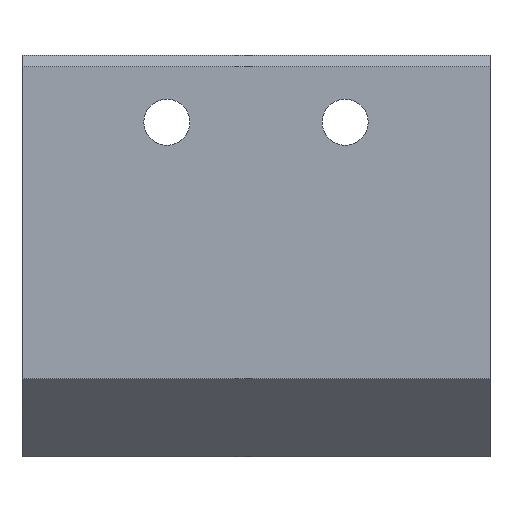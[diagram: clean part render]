
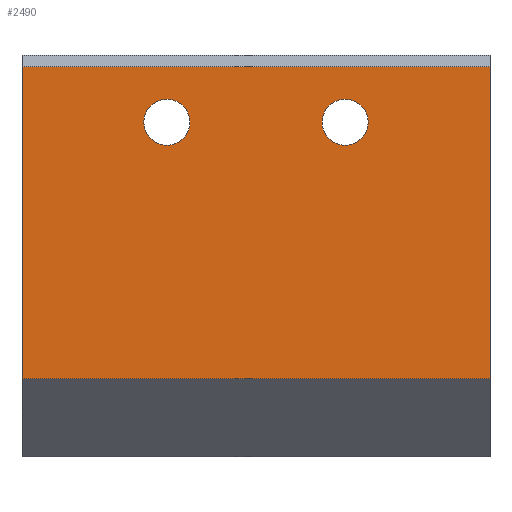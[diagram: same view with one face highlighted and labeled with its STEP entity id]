
A CAD part, front view. The second image highlights one B-rep face of the part: STEP entity #2490.
In plain terms, the highlighted planar face has unit normal (0, -1, 0).
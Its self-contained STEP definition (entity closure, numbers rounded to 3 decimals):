
#1672=CARTESIAN_POINT('',(42.0,-15.,20.));
#1673=VERTEX_POINT('',#1672);
#1690=CARTESIAN_POINT('',(0.0,-15.,20.));
#1691=VERTEX_POINT('',#1690);
#1698=CARTESIAN_POINT('',(0.0,-15.,20.));
#1699=DIRECTION('',(1.0,0.0,0.0));
#1700=VECTOR('',#1699,42.0);
#1701=LINE('',#1698,#1700);
#1702=EDGE_CURVE('',#1691,#1673,#1701,.T.);
#1753=CARTESIAN_POINT('',(0.0,-15.,-8.));
#1754=VERTEX_POINT('',#1753);
#1761=CARTESIAN_POINT('',(0.0,-15.,-8.));
#1762=DIRECTION('',(0.0,0.0,1.0));
#1763=VECTOR('',#1762,28.0);
#1764=LINE('',#1761,#1763);
#1765=EDGE_CURVE('',#1754,#1691,#1764,.T.);
#1850=CARTESIAN_POINT('',(42.0,-15.,-8.));
#1851=VERTEX_POINT('',#1850);
#1858=CARTESIAN_POINT('',(42.0,-15.,-8.));
#1859=DIRECTION('',(-1.0,0.0,0.0));
#1860=VECTOR('',#1859,42.0);
#1861=LINE('',#1858,#1860);
#1862=EDGE_CURVE('',#1851,#1754,#1861,.T.);
#2281=CARTESIAN_POINT('',(31.067,-15.,15.));
#2282=VERTEX_POINT('',#2281);
#2283=CARTESIAN_POINT('',(29.,-15.,15.));
#2284=DIRECTION('',(0.0,1.0,0.0));
#2285=DIRECTION('',(-1.0,0.0,0.0));
#2286=AXIS2_PLACEMENT_3D('',#2283,#2284,#2285);
#2287=CIRCLE('',#2286,2.067);
#2288=EDGE_CURVE('',#2282,#2282,#2287,.T.);
#2391=CARTESIAN_POINT('',(15.067,-15.,15.));
#2392=VERTEX_POINT('',#2391);
#2393=CARTESIAN_POINT('',(13.,-15.,15.));
#2394=DIRECTION('',(0.0,1.0,0.0));
#2395=DIRECTION('',(-1.0,0.0,0.0));
#2396=AXIS2_PLACEMENT_3D('',#2393,#2394,#2395);
#2397=CIRCLE('',#2396,2.067);
#2398=EDGE_CURVE('',#2392,#2392,#2397,.T.);
#2468=CARTESIAN_POINT('',(0.0,-15.,-15.));
#2469=DIRECTION('',(0.0,-1.0,0.0));
#2470=DIRECTION('',(0.0,0.0,-1.0));
#2471=AXIS2_PLACEMENT_3D('',#2468,#2469,#2470);
#2472=PLANE('',#2471);
#2473=ORIENTED_EDGE('',*,*,#1702,.F.);
#2474=ORIENTED_EDGE('',*,*,#1765,.F.);
#2475=ORIENTED_EDGE('',*,*,#1862,.F.);
#2476=CARTESIAN_POINT('',(42.0,-15.,-8.));
#2477=DIRECTION('',(0.0,0.0,1.0));
#2478=VECTOR('',#2477,28.0);
#2479=LINE('',#2476,#2478);
#2480=EDGE_CURVE('',#1851,#1673,#2479,.T.);
#2481=ORIENTED_EDGE('',*,*,#2480,.T.);
#2482=EDGE_LOOP('',(#2473,#2474,#2475,#2481));
#2483=FACE_OUTER_BOUND('',#2482,.T.);
#2484=ORIENTED_EDGE('',*,*,#2288,.T.);
#2485=EDGE_LOOP('',(#2484));
#2486=FACE_BOUND('',#2485,.T.);
#2487=ORIENTED_EDGE('',*,*,#2398,.T.);
#2488=EDGE_LOOP('',(#2487));
#2489=FACE_BOUND('',#2488,.T.);
#2490=ADVANCED_FACE('',(#2483,#2486,#2489),#2472,.T.);
